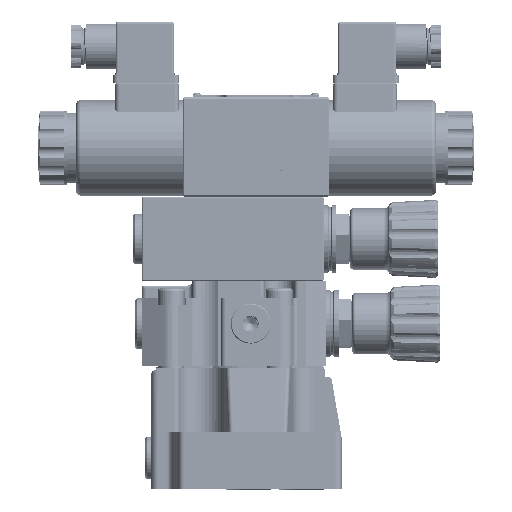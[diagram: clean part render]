
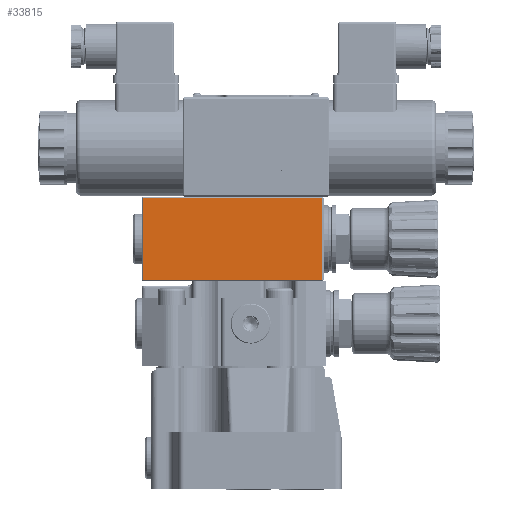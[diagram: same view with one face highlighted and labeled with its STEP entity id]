
A CAD part, front view. The second image highlights one B-rep face of the part: STEP entity #33815.
In plain terms, the highlighted planar face has unit normal (0, -1, 0).
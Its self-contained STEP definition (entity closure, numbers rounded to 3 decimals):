
#6633=PLANE('',#102545);
#16848=LINE('',#402129,#26349);
#16849=LINE('',#402132,#26350);
#16850=LINE('',#402134,#26351);
#16851=LINE('',#402136,#26352);
#26349=VECTOR('',#125471,1.);
#26350=VECTOR('',#125472,1.);
#26351=VECTOR('',#125473,1.);
#26352=VECTOR('',#125474,1.);
#33815=ADVANCED_FACE('',(#38346),#6633,.F.);
#38346=FACE_OUTER_BOUND('',#44476,.T.);
#44476=EDGE_LOOP('',(#71839,#71840,#71841,#71842));
#71839=ORIENTED_EDGE('',*,*,#93921,.T.);
#71840=ORIENTED_EDGE('',*,*,#93922,.T.);
#71841=ORIENTED_EDGE('',*,*,#93923,.T.);
#71842=ORIENTED_EDGE('',*,*,#93924,.T.);
#81065=VERTEX_POINT('',#402130);
#81066=VERTEX_POINT('',#402131);
#81067=VERTEX_POINT('',#402133);
#81068=VERTEX_POINT('',#402135);
#93921=EDGE_CURVE('',#81065,#81066,#16848,.T.);
#93922=EDGE_CURVE('',#81066,#81067,#16849,.T.);
#93923=EDGE_CURVE('',#81067,#81068,#16850,.T.);
#93924=EDGE_CURVE('',#81068,#81065,#16851,.T.);
#102545=AXIS2_PLACEMENT_3D('',#402137,#125475,#125476);
#125471=DIRECTION('',(1.,0.,0.));
#125472=DIRECTION('',(0.,0.,1.));
#125473=DIRECTION('',(-1.,0.,0.));
#125474=DIRECTION('',(0.,0.,-1.));
#125475=DIRECTION('',(0.,1.,0.));
#125476=DIRECTION('',(-1.,0.,0.));
#402129=CARTESIAN_POINT('',(-660.26,-78.932,130.7));
#402130=CARTESIAN_POINT('',(-745.56,-78.932,130.7));
#402131=CARTESIAN_POINT('',(-660.96,-78.932,130.7));
#402132=CARTESIAN_POINT('',(-660.96,-78.932,170.));
#402133=CARTESIAN_POINT('',(-660.96,-78.932,169.3));
#402134=CARTESIAN_POINT('',(-746.26,-78.932,169.3));
#402135=CARTESIAN_POINT('',(-745.56,-78.932,169.3));
#402136=CARTESIAN_POINT('',(-745.56,-78.932,130.));
#402137=CARTESIAN_POINT('',(-876.223,-78.932,-2.501));
